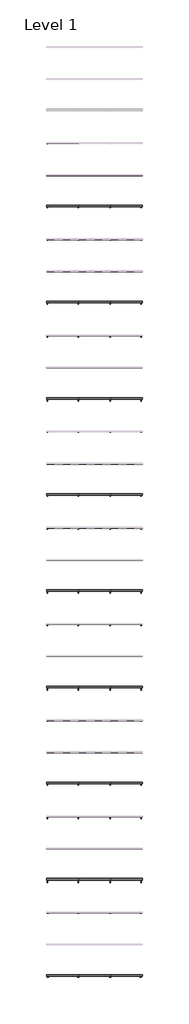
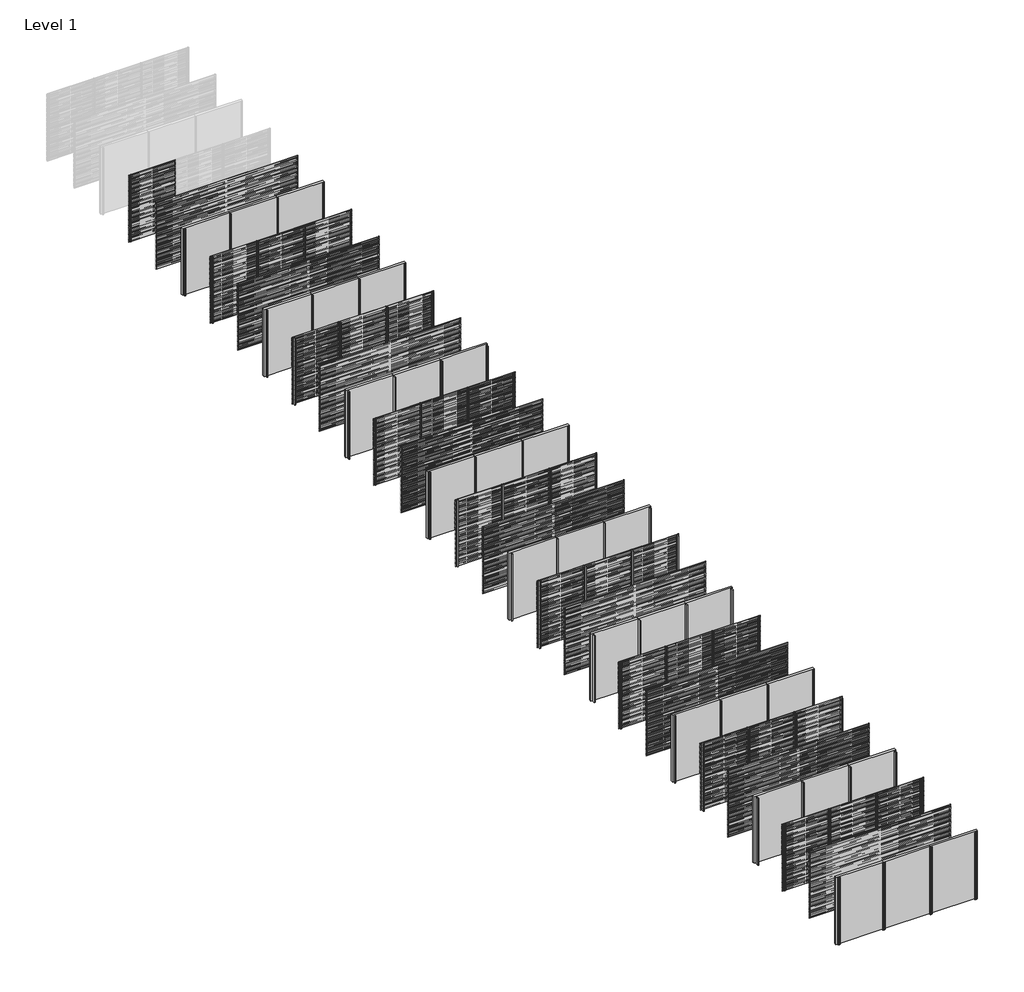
# One storey, part 1 of 38: 69 members, 61 plates.
"""IFC4 building model written with IfcOpenShell, lengths in millimetres."""

from ifc_helpers import new_model, si_unit, origin, origin_with_axes, place, context, project, spatial, polyline, outline, extrude, transform, mapped, element, save
from components import rectangular_mullion_e1f482b2, rectangular_mullion_21e3ddae, rectangular_mullion_fb497acc, rectangular_mullion_3facce28, rectangular_mullion_6cf2c509, rectangular_mullion_8b77bd57, rectangular_mullion_2c867e25, rectangular_mullion_7803f5c4, rectangular_mullion_82152e2f, rectangular_mullion_146f339b, rectangular_mullion_aa1047c5, rectangular_mullion_c2c7736a, rectangular_mullion_35b0a916, rectangular_mullion_bd250e2e, rectangular_mullion_7b49c8f1, rectangular_mullion_2b84ad7e, rectangular_mullion_0fd695e7, rectangular_mullion_9b796d85, rectangular_mullion_dfb17e98, rectangular_mullion_6132f1f1, rectangular_mullion_8f153c19, rectangular_mullion_5b30f3fd, rectangular_mullion_5e0e8e0a, rectangular_mullion_d2d38772, rectangular_mullion_efb80f74, rectangular_mullion_aaa1fb1b, rectangular_mullion_ea9d012c, empty_system_panel_empty_90a97279

model = new_model("IFC4")

# Units and contexts
model_context = context("Model", 3, world=origin())
ifc_project = project(units=[si_unit("LENGTHUNIT", "METRE", prefix="MILLI")], contexts=[model_context])

# Site, building, storey
site = spatial("IfcSite", under=ifc_project)
building = spatial("IfcBuilding", under=site)
storey = spatial("IfcBuildingStorey", under=building, Name="Level 1", Elevation=0.0)

# Members
placement = place(None, origin())
rectangular_mullion_shape = rectangular_mullion_e1f482b2(model_context)
element("IfcMember", 1, ObjectType="Rectangular Mullion : NLRS_21_CWM_drager LD.0195_Storax", at=placement, inside=storey, context=model_context, shape_type="MappedRepresentation", body=[
    mapped(rectangular_mullion_shape, transform((4000.0, -10000.0, 0.0), x_axis=(-1.0, 0.0, 0.0), y_axis=(0.0, 1.0, 0.0), z_axis=(0.0, 0.0, -1.0))),
])
element("IfcMember", 2, ObjectType="Rectangular Mullion : NLRS_21_CWM_drager LD.0195_Storax", at=placement, inside=storey, context=model_context, shape_type="MappedRepresentation", body=[
    mapped(rectangular_mullion_shape, transform((2000.0, -10000.0, 0.0), x_axis=(-1.0, 0.0, 0.0), y_axis=(0.0, 1.0, 0.0), z_axis=(0.0, 0.0, -1.0))),
])
rectangular_mullion_2_shape = rectangular_mullion_21e3ddae(model_context)
element("IfcMember", 3, ObjectType="Rectangular Mullion : NLRS_21_CWM_drager LD.0460_Storax", at=placement, inside=storey, context=model_context, shape_type="MappedRepresentation", body=[
    mapped(rectangular_mullion_2_shape, transform((4000.0, -12000.0, 0.0), x_axis=(-1.0, 0.0, 0.0), y_axis=(0.0, 1.0, 0.0), z_axis=(0.0, 0.0, -1.0))),
])
element("IfcMember", 4, ObjectType="Rectangular Mullion : NLRS_21_CWM_drager LD.0460_Storax", at=placement, inside=storey, context=model_context, shape_type="MappedRepresentation", body=[
    mapped(rectangular_mullion_2_shape, transform((2000.0, -12000.0, 0.0), x_axis=(-1.0, 0.0, 0.0), y_axis=(0.0, 1.0, 0.0), z_axis=(0.0, 0.0, -1.0))),
])
element("IfcMember", 5, ObjectType="Rectangular Mullion : NLRS_21_CWM_drager LD.0460_Storax", at=placement, inside=storey, context=model_context, shape_type="MappedRepresentation", body=[
    mapped(rectangular_mullion_2_shape, transform((4000.0, -16000.0, 0.0), x_axis=(-1.0, 0.0, 0.0), y_axis=(0.0, 1.0, 0.0), z_axis=(0.0, 0.0, -1.0))),
])
element("IfcMember", 6, ObjectType="Rectangular Mullion : NLRS_21_CWM_drager LD.0460_Storax", at=placement, inside=storey, context=model_context, shape_type="MappedRepresentation", body=[
    mapped(rectangular_mullion_2_shape, transform((2000.0, -16000.0, 0.0), x_axis=(-1.0, 0.0, 0.0), y_axis=(0.0, 1.0, 0.0), z_axis=(0.0, 0.0, -1.0))),
])
rectangular_mullion_3_shape = rectangular_mullion_fb497acc(model_context)
element("IfcMember", 7, ObjectType="Rectangular Mullion : NLRS_21_CWM_drager LD.0995_Storax", at=placement, inside=storey, context=model_context, shape_type="MappedRepresentation", body=[
    mapped(rectangular_mullion_3_shape, transform((4000.0, -18000.0, 0.0), x_axis=(-1.0, 0.0, 0.0), y_axis=(0.0, 1.0, 0.0), z_axis=(0.0, 0.0, -1.0))),
])
element("IfcMember", 8, ObjectType="Rectangular Mullion : NLRS_21_CWM_drager LD.0995_Storax", at=placement, inside=storey, context=model_context, shape_type="MappedRepresentation", body=[
    mapped(rectangular_mullion_3_shape, transform((2000.0, -18000.0, 0.0), x_axis=(-1.0, 0.0, 0.0), y_axis=(0.0, 1.0, 0.0), z_axis=(0.0, 0.0, -1.0))),
])
element("IfcMember", 9, ObjectType="Rectangular Mullion : NLRS_21_CWM_drager LD.0995_Storax", at=placement, inside=storey, context=model_context, shape_type="MappedRepresentation", body=[
    mapped(rectangular_mullion_3_shape, transform((4000.0, -22000.0, 0.0), x_axis=(-1.0, 0.0, 0.0), y_axis=(0.0, 1.0, 0.0), z_axis=(0.0, 0.0, -1.0))),
])
element("IfcMember", 10, ObjectType="Rectangular Mullion : NLRS_21_CWM_drager LD.0995_Storax", at=placement, inside=storey, context=model_context, shape_type="MappedRepresentation", body=[
    mapped(rectangular_mullion_3_shape, transform((2000.0, -22000.0, 0.0), x_axis=(-1.0, 0.0, 0.0), y_axis=(0.0, 1.0, 0.0), z_axis=(0.0, 0.0, -1.0))),
])
rectangular_mullion_4_shape = rectangular_mullion_3facce28(model_context)
element("IfcMember", 11, ObjectType="Rectangular Mullion : NLRS_21_CWM_drager SD.014_Storax", at=placement, inside=storey, context=model_context, shape_type="MappedRepresentation", body=[
    mapped(rectangular_mullion_4_shape, transform((4000.0, -24000.0, 0.0), x_axis=(-1.0, 0.0, 0.0), y_axis=(0.0, 1.0, 0.0), z_axis=(0.0, 0.0, -1.0))),
])
element("IfcMember", 12, ObjectType="Rectangular Mullion : NLRS_21_CWM_drager SD.014_Storax", at=placement, inside=storey, context=model_context, shape_type="MappedRepresentation", body=[
    mapped(rectangular_mullion_4_shape, transform((2000.0, -24000.0, 0.0), x_axis=(-1.0, 0.0, 0.0), y_axis=(0.0, 1.0, 0.0), z_axis=(0.0, 0.0, -1.0))),
])
element("IfcMember", 13, ObjectType="Rectangular Mullion : NLRS_21_CWM_drager SD.014_Storax", at=placement, inside=storey, context=model_context, shape_type="MappedRepresentation", body=[
    mapped(rectangular_mullion_4_shape, transform((4000.0, -28000.0, 0.0), x_axis=(-1.0, 0.0, 0.0), y_axis=(0.0, 1.0, 0.0), z_axis=(0.0, 0.0, -1.0))),
])
element("IfcMember", 14, ObjectType="Rectangular Mullion : NLRS_21_CWM_drager SD.014_Storax", at=placement, inside=storey, context=model_context, shape_type="MappedRepresentation", body=[
    mapped(rectangular_mullion_4_shape, transform((2000.0, -28000.0, 0.0), x_axis=(-1.0, 0.0, 0.0), y_axis=(0.0, 1.0, 0.0), z_axis=(0.0, 0.0, -1.0))),
])
rectangular_mullion_5_shape = rectangular_mullion_6cf2c509(model_context)
element("IfcMember", 15, ObjectType="Rectangular Mullion : NLRS_21_CWM_drager SD.054_Storax", at=placement, inside=storey, context=model_context, shape_type="MappedRepresentation", body=[
    mapped(rectangular_mullion_5_shape, transform((4000.0, -30000.0, 0.0), x_axis=(-1.0, 0.0, 0.0), y_axis=(0.0, 1.0, 0.0), z_axis=(0.0, 0.0, -1.0))),
])
element("IfcMember", 16, ObjectType="Rectangular Mullion : NLRS_21_CWM_drager SD.054_Storax", at=placement, inside=storey, context=model_context, shape_type="MappedRepresentation", body=[
    mapped(rectangular_mullion_5_shape, transform((2000.0, -30000.0, 0.0), x_axis=(-1.0, 0.0, 0.0), y_axis=(0.0, 1.0, 0.0), z_axis=(0.0, 0.0, -1.0))),
])
element("IfcMember", 17, ObjectType="Rectangular Mullion : NLRS_21_CWM_drager SD.054_Storax", at=placement, inside=storey, context=model_context, shape_type="MappedRepresentation", body=[
    mapped(rectangular_mullion_5_shape, transform((4000.0, -34000.0, 0.0), x_axis=(-1.0, 0.0, 0.0), y_axis=(0.0, 1.0, 0.0), z_axis=(0.0, 0.0, -1.0))),
])
element("IfcMember", 18, ObjectType="Rectangular Mullion : NLRS_21_CWM_drager SD.054_Storax", at=placement, inside=storey, context=model_context, shape_type="MappedRepresentation", body=[
    mapped(rectangular_mullion_5_shape, transform((2000.0, -34000.0, 0.0), x_axis=(-1.0, 0.0, 0.0), y_axis=(0.0, 1.0, 0.0), z_axis=(0.0, 0.0, -1.0))),
])
rectangular_mullion_6_shape = rectangular_mullion_8b77bd57(model_context)
element("IfcMember", 19, ObjectType="Rectangular Mullion : NLRS_21_CWM_drager SD.100_Storax", at=placement, inside=storey, context=model_context, shape_type="MappedRepresentation", body=[
    mapped(rectangular_mullion_6_shape, transform((4000.0, -36000.0, 0.0), x_axis=(-1.0, 0.0, 0.0), y_axis=(0.0, 1.0, 0.0), z_axis=(0.0, 0.0, -1.0))),
])
element("IfcMember", 20, ObjectType="Rectangular Mullion : NLRS_21_CWM_drager SD.100_Storax", at=placement, inside=storey, context=model_context, shape_type="MappedRepresentation", body=[
    mapped(rectangular_mullion_6_shape, transform((2000.0, -36000.0, 0.0), x_axis=(-1.0, 0.0, 0.0), y_axis=(0.0, 1.0, 0.0), z_axis=(0.0, 0.0, -1.0))),
])
element("IfcMember", 21, ObjectType="Rectangular Mullion : NLRS_21_CWM_drager SD.100_Storax", at=placement, inside=storey, context=model_context, shape_type="MappedRepresentation", body=[
    mapped(rectangular_mullion_6_shape, transform((4000.0, -40000.0, 0.0), x_axis=(-1.0, 0.0, 0.0), y_axis=(0.0, 1.0, 0.0), z_axis=(0.0, 0.0, -1.0))),
])
element("IfcMember", 22, ObjectType="Rectangular Mullion : NLRS_21_CWM_drager SD.100_Storax", at=placement, inside=storey, context=model_context, shape_type="MappedRepresentation", body=[
    mapped(rectangular_mullion_6_shape, transform((2000.0, -40000.0, 0.0), x_axis=(-1.0, 0.0, 0.0), y_axis=(0.0, 1.0, 0.0), z_axis=(0.0, 0.0, -1.0))),
])
rectangular_mullion_7_shape = rectangular_mullion_2c867e25(model_context)
element("IfcMember", 23, ObjectType="Rectangular Mullion : NLRS_21_CWM_drager LD.0440_Storax", at=placement, inside=storey, context=model_context, shape_type="MappedRepresentation", body=[
    mapped(rectangular_mullion_7_shape, transform((4000.0, -42000.0, 0.0), x_axis=(-1.0, 0.0, 0.0), y_axis=(0.0, 1.0, 0.0), z_axis=(0.0, 0.0, -1.0))),
])
element("IfcMember", 24, ObjectType="Rectangular Mullion : NLRS_21_CWM_drager LD.0440_Storax", at=placement, inside=storey, context=model_context, shape_type="MappedRepresentation", body=[
    mapped(rectangular_mullion_7_shape, transform((2000.0, -42000.0, 0.0), x_axis=(-1.0, 0.0, 0.0), y_axis=(0.0, 1.0, 0.0), z_axis=(0.0, 0.0, -1.0))),
])
element("IfcMember", 25, ObjectType="Rectangular Mullion : NLRS_21_CWM_drager LD.0440_Storax", at=placement, inside=storey, context=model_context, shape_type="MappedRepresentation", body=[
    mapped(rectangular_mullion_7_shape, transform((4000.0, -46000.0, 0.0), x_axis=(-1.0, 0.0, 0.0), y_axis=(0.0, 1.0, 0.0), z_axis=(0.0, 0.0, -1.0))),
])
element("IfcMember", 26, ObjectType="Rectangular Mullion : NLRS_21_CWM_drager LD.0440_Storax", at=placement, inside=storey, context=model_context, shape_type="MappedRepresentation", body=[
    mapped(rectangular_mullion_7_shape, transform((2000.0, -46000.0, 0.0), x_axis=(-1.0, 0.0, 0.0), y_axis=(0.0, 1.0, 0.0), z_axis=(0.0, 0.0, -1.0))),
])
rectangular_mullion_8_shape = rectangular_mullion_7803f5c4(model_context)
element("IfcMember", 27, ObjectType="Rectangular Mullion : NLRS_21_CWM_drager LD.1250_Storax", at=placement, inside=storey, context=model_context, shape_type="MappedRepresentation", body=[
    mapped(rectangular_mullion_8_shape, transform((4000.0, -48000.0, 0.0), x_axis=(-1.0, 0.0, 0.0), y_axis=(0.0, 1.0, 0.0), z_axis=(0.0, 0.0, -1.0))),
])
element("IfcMember", 28, ObjectType="Rectangular Mullion : NLRS_21_CWM_drager LD.1250_Storax", at=placement, inside=storey, context=model_context, shape_type="MappedRepresentation", body=[
    mapped(rectangular_mullion_8_shape, transform((2000.0, -48000.0, 0.0), x_axis=(-1.0, 0.0, 0.0), y_axis=(0.0, 1.0, 0.0), z_axis=(0.0, 0.0, -1.0))),
])
element("IfcMember", 29, ObjectType="Rectangular Mullion : NLRS_21_CWM_drager LD.1250_Storax", at=placement, inside=storey, context=model_context, shape_type="MappedRepresentation", body=[
    mapped(rectangular_mullion_8_shape, transform((4000.0, -52000.0, 0.0), x_axis=(-1.0, 0.0, 0.0), y_axis=(0.0, 1.0, 0.0), z_axis=(0.0, 0.0, -1.0))),
])
element("IfcMember", 30, ObjectType="Rectangular Mullion : NLRS_21_CWM_drager LD.1250_Storax", at=placement, inside=storey, context=model_context, shape_type="MappedRepresentation", body=[
    mapped(rectangular_mullion_8_shape, transform((2000.0, -52000.0, 0.0), x_axis=(-1.0, 0.0, 0.0), y_axis=(0.0, 1.0, 0.0), z_axis=(0.0, 0.0, -1.0))),
])
rectangular_mullion_9_shape = rectangular_mullion_82152e2f(model_context)
element("IfcMember", 31, ObjectType="Rectangular Mullion : NLRS_21_CWM_drager LD.0240_Storax", at=placement, inside=storey, context=model_context, shape_type="MappedRepresentation", body=[
    mapped(rectangular_mullion_9_shape, transform((4000.0, -54000.0, 0.0), x_axis=(-1.0, 0.0, 0.0), y_axis=(0.0, 1.0, 0.0), z_axis=(0.0, 0.0, -1.0))),
])
element("IfcMember", 32, ObjectType="Rectangular Mullion : NLRS_21_CWM_drager LD.0240_Storax", at=placement, inside=storey, context=model_context, shape_type="MappedRepresentation", body=[
    mapped(rectangular_mullion_9_shape, transform((2000.0, -54000.0, 0.0), x_axis=(-1.0, 0.0, 0.0), y_axis=(0.0, 1.0, 0.0), z_axis=(0.0, 0.0, -1.0))),
])
element("IfcMember", 33, ObjectType="Rectangular Mullion : NLRS_21_CWM_drager LD.0240_Storax", at=placement, inside=storey, context=model_context, shape_type="MappedRepresentation", body=[
    mapped(rectangular_mullion_9_shape, transform((4000.0, -58000.0, 0.0), x_axis=(-1.0, 0.0, 0.0), y_axis=(0.0, 1.0, 0.0), z_axis=(0.0, 0.0, -1.0))),
])
element("IfcMember", 34, ObjectType="Rectangular Mullion : NLRS_21_CWM_drager LD.0240_Storax", at=placement, inside=storey, context=model_context, shape_type="MappedRepresentation", body=[
    mapped(rectangular_mullion_9_shape, transform((2000.0, -58000.0, 0.0), x_axis=(-1.0, 0.0, 0.0), y_axis=(0.0, 1.0, 0.0), z_axis=(0.0, 0.0, -1.0))),
])
rectangular_mullion_10_shape = rectangular_mullion_146f339b(model_context)
element("IfcMember", 35, ObjectType="Rectangular Mullion : NLRS_21_CWM_drager LD.0195 - links_Storax", at=placement, inside=storey, context=model_context, shape_type="MappedRepresentation", body=[
    mapped(rectangular_mullion_10_shape, transform((0.0, -6000.0, 0.0), x_axis=(-1.0, 0.0, 0.0), y_axis=(0.0, 1.0, 0.0), z_axis=(0.0, 0.0, -1.0))),
])
element("IfcMember", 36, ObjectType="Rectangular Mullion : NLRS_21_CWM_drager LD.0195 - links_Storax", at=placement, inside=storey, context=model_context, shape_type="MappedRepresentation", body=[
    mapped(rectangular_mullion_10_shape, transform((0.0, -10000.0, 0.0), x_axis=(-1.0, 0.0, 0.0), y_axis=(0.0, 1.0, 0.0), z_axis=(0.0, 0.0, -1.0))),
])
rectangular_mullion_11_shape = rectangular_mullion_aa1047c5(model_context)
element("IfcMember", 37, ObjectType="Rectangular Mullion : NLRS_21_CWM_drager LD.0195 - rechts_Storax", at=placement, inside=storey, context=model_context, shape_type="MappedRepresentation", body=[
    mapped(rectangular_mullion_11_shape, transform((6000.0, -10000.0, 3000.0), x_axis=(1.0, 0.0, 0.0), y_axis=(0.0, 1.0, 0.0), z_axis=(0.0, 0.0, 1.0))),
])
rectangular_mullion_12_shape = rectangular_mullion_c2c7736a(model_context)
element("IfcMember", 38, ObjectType="Rectangular Mullion : NLRS_21_CWM_drager LD.0460 - links_Storax", at=placement, inside=storey, context=model_context, shape_type="MappedRepresentation", body=[
    mapped(rectangular_mullion_12_shape, transform((0.0, -12000.0, 0.0), x_axis=(-1.0, 0.0, 0.0), y_axis=(0.0, 1.0, 0.0), z_axis=(0.0, 0.0, -1.0))),
])
element("IfcMember", 39, ObjectType="Rectangular Mullion : NLRS_21_CWM_drager LD.0460 - links_Storax", at=placement, inside=storey, context=model_context, shape_type="MappedRepresentation", body=[
    mapped(rectangular_mullion_12_shape, transform((0.0, -16000.0, 0.0), x_axis=(-1.0, 0.0, 0.0), y_axis=(0.0, 1.0, 0.0), z_axis=(0.0, 0.0, -1.0))),
])
rectangular_mullion_13_shape = rectangular_mullion_35b0a916(model_context)
element("IfcMember", 40, ObjectType="Rectangular Mullion : NLRS_21_CWM_drager LD.0460 - rechts_Storax", at=placement, inside=storey, context=model_context, shape_type="MappedRepresentation", body=[
    mapped(rectangular_mullion_13_shape, transform((6000.0, -12000.0, 3000.0), x_axis=(1.0, 0.0, 0.0), y_axis=(0.0, 1.0, 0.0), z_axis=(0.0, 0.0, 1.0))),
])
element("IfcMember", 41, ObjectType="Rectangular Mullion : NLRS_21_CWM_drager LD.0460 - rechts_Storax", at=placement, inside=storey, context=model_context, shape_type="MappedRepresentation", body=[
    mapped(rectangular_mullion_13_shape, transform((6000.0, -16000.0, 3000.0), x_axis=(1.0, 0.0, 0.0), y_axis=(0.0, 1.0, 0.0), z_axis=(0.0, 0.0, 1.0))),
])
rectangular_mullion_14_shape = rectangular_mullion_bd250e2e(model_context)
element("IfcMember", 42, ObjectType="Rectangular Mullion : NLRS_21_CWM_drager LD.0995 - links_Storax", at=placement, inside=storey, context=model_context, shape_type="MappedRepresentation", body=[
    mapped(rectangular_mullion_14_shape, transform((0.0, -18000.0, 0.0), x_axis=(-1.0, 0.0, 0.0), y_axis=(0.0, 1.0, 0.0), z_axis=(0.0, 0.0, -1.0))),
])
element("IfcMember", 43, ObjectType="Rectangular Mullion : NLRS_21_CWM_drager LD.0995 - links_Storax", at=placement, inside=storey, context=model_context, shape_type="MappedRepresentation", body=[
    mapped(rectangular_mullion_14_shape, transform((0.0, -22000.0, 0.0), x_axis=(-1.0, 0.0, 0.0), y_axis=(0.0, 1.0, 0.0), z_axis=(0.0, 0.0, -1.0))),
])
rectangular_mullion_15_shape = rectangular_mullion_7b49c8f1(model_context)
element("IfcMember", 44, ObjectType="Rectangular Mullion : NLRS_21_CWM_drager LD.0995 - rechts_Storax", at=placement, inside=storey, context=model_context, shape_type="MappedRepresentation", body=[
    mapped(rectangular_mullion_15_shape, transform((6000.0, -18000.0, 3000.0), x_axis=(1.0, 0.0, 0.0), y_axis=(0.0, 1.0, 0.0), z_axis=(0.0, 0.0, 1.0))),
])
element("IfcMember", 45, ObjectType="Rectangular Mullion : NLRS_21_CWM_drager LD.0995 - rechts_Storax", at=placement, inside=storey, context=model_context, shape_type="MappedRepresentation", body=[
    mapped(rectangular_mullion_15_shape, transform((6000.0, -22000.0, 3000.0), x_axis=(1.0, 0.0, 0.0), y_axis=(0.0, 1.0, 0.0), z_axis=(0.0, 0.0, 1.0))),
])
rectangular_mullion_16_shape = rectangular_mullion_2b84ad7e(model_context)
element("IfcMember", 46, ObjectType="Rectangular Mullion : NLRS_21_CWM_drager SD.014 - links_Storax", at=placement, inside=storey, context=model_context, shape_type="MappedRepresentation", body=[
    mapped(rectangular_mullion_16_shape, transform((0.0, -24000.0, 0.0), x_axis=(-1.0, 0.0, 0.0), y_axis=(0.0, 1.0, 0.0), z_axis=(0.0, 0.0, -1.0))),
])
element("IfcMember", 47, ObjectType="Rectangular Mullion : NLRS_21_CWM_drager SD.014 - links_Storax", at=placement, inside=storey, context=model_context, shape_type="MappedRepresentation", body=[
    mapped(rectangular_mullion_16_shape, transform((0.0, -28000.0, 0.0), x_axis=(-1.0, 0.0, 0.0), y_axis=(0.0, 1.0, 0.0), z_axis=(0.0, 0.0, -1.0))),
])
rectangular_mullion_17_shape = rectangular_mullion_0fd695e7(model_context)
element("IfcMember", 48, ObjectType="Rectangular Mullion : NLRS_21_CWM_drager SD.014 - rechts_Storax", at=placement, inside=storey, context=model_context, shape_type="MappedRepresentation", body=[
    mapped(rectangular_mullion_17_shape, transform((6000.0, -24000.0, 3000.0), x_axis=(1.0, 0.0, 0.0), y_axis=(0.0, 1.0, 0.0), z_axis=(0.0, 0.0, 1.0))),
])
element("IfcMember", 49, ObjectType="Rectangular Mullion : NLRS_21_CWM_drager SD.014 - rechts_Storax", at=placement, inside=storey, context=model_context, shape_type="MappedRepresentation", body=[
    mapped(rectangular_mullion_17_shape, transform((6000.0, -28000.0, 3000.0), x_axis=(1.0, 0.0, 0.0), y_axis=(0.0, 1.0, 0.0), z_axis=(0.0, 0.0, 1.0))),
])
rectangular_mullion_18_shape = rectangular_mullion_9b796d85(model_context)
element("IfcMember", 50, ObjectType="Rectangular Mullion : NLRS_21_CWM_drager SD.054 - links_Storax", at=placement, inside=storey, context=model_context, shape_type="MappedRepresentation", body=[
    mapped(rectangular_mullion_18_shape, transform((0.0, -30000.0, 0.0), x_axis=(-1.0, 0.0, 0.0), y_axis=(0.0, 1.0, 0.0), z_axis=(0.0, 0.0, -1.0))),
])
element("IfcMember", 51, ObjectType="Rectangular Mullion : NLRS_21_CWM_drager SD.054 - links_Storax", at=placement, inside=storey, context=model_context, shape_type="MappedRepresentation", body=[
    mapped(rectangular_mullion_18_shape, transform((0.0, -34000.0, 0.0), x_axis=(-1.0, 0.0, 0.0), y_axis=(0.0, 1.0, 0.0), z_axis=(0.0, 0.0, -1.0))),
])
rectangular_mullion_19_shape = rectangular_mullion_dfb17e98(model_context)
element("IfcMember", 52, ObjectType="Rectangular Mullion : NLRS_21_CWM_drager SD.054 - rechts_Storax", at=placement, inside=storey, context=model_context, shape_type="MappedRepresentation", body=[
    mapped(rectangular_mullion_19_shape, transform((6000.0, -30000.0, 3000.0), x_axis=(1.0, 0.0, 0.0), y_axis=(0.0, 1.0, 0.0), z_axis=(0.0, 0.0, 1.0))),
])
element("IfcMember", 53, ObjectType="Rectangular Mullion : NLRS_21_CWM_drager SD.054 - rechts_Storax", at=placement, inside=storey, context=model_context, shape_type="MappedRepresentation", body=[
    mapped(rectangular_mullion_19_shape, transform((6000.0, -34000.0, 3000.0), x_axis=(1.0, 0.0, 0.0), y_axis=(0.0, 1.0, 0.0), z_axis=(0.0, 0.0, 1.0))),
])
rectangular_mullion_20_shape = rectangular_mullion_6132f1f1(model_context)
element("IfcMember", 54, ObjectType="Rectangular Mullion : NLRS_21_CWM_drager SD.100 - links_Storax", at=placement, inside=storey, context=model_context, shape_type="MappedRepresentation", body=[
    mapped(rectangular_mullion_20_shape, transform((0.0, -36000.0, 0.0), x_axis=(-1.0, 0.0, 0.0), y_axis=(0.0, 1.0, 0.0), z_axis=(0.0, 0.0, -1.0))),
])
element("IfcMember", 55, ObjectType="Rectangular Mullion : NLRS_21_CWM_drager SD.100 - links_Storax", at=placement, inside=storey, context=model_context, shape_type="MappedRepresentation", body=[
    mapped(rectangular_mullion_20_shape, transform((0.0, -40000.0, 0.0), x_axis=(-1.0, 0.0, 0.0), y_axis=(0.0, 1.0, 0.0), z_axis=(0.0, 0.0, -1.0))),
])
rectangular_mullion_21_shape = rectangular_mullion_8f153c19(model_context)
element("IfcMember", 56, ObjectType="Rectangular Mullion : NLRS_21_CWM_drager SD.100 - rechts_Storax", at=placement, inside=storey, context=model_context, shape_type="MappedRepresentation", body=[
    mapped(rectangular_mullion_21_shape, transform((6000.0, -36000.0, 3000.0), x_axis=(1.0, 0.0, 0.0), y_axis=(0.0, 1.0, 0.0), z_axis=(0.0, 0.0, 1.0))),
])
element("IfcMember", 57, ObjectType="Rectangular Mullion : NLRS_21_CWM_drager SD.100 - rechts_Storax", at=placement, inside=storey, context=model_context, shape_type="MappedRepresentation", body=[
    mapped(rectangular_mullion_21_shape, transform((6000.0, -40000.0, 3000.0), x_axis=(1.0, 0.0, 0.0), y_axis=(0.0, 1.0, 0.0), z_axis=(0.0, 0.0, 1.0))),
])
rectangular_mullion_22_shape = rectangular_mullion_5b30f3fd(model_context)
element("IfcMember", 58, ObjectType="Rectangular Mullion : NLRS_21_CWM_drager LD.0440 - links_Storax", at=placement, inside=storey, context=model_context, shape_type="MappedRepresentation", body=[
    mapped(rectangular_mullion_22_shape, transform((0.0, -42000.0, 0.0), x_axis=(-1.0, 0.0, 0.0), y_axis=(0.0, 1.0, 0.0), z_axis=(0.0, 0.0, -1.0))),
])
element("IfcMember", 59, ObjectType="Rectangular Mullion : NLRS_21_CWM_drager LD.0440 - links_Storax", at=placement, inside=storey, context=model_context, shape_type="MappedRepresentation", body=[
    mapped(rectangular_mullion_22_shape, transform((0.0, -46000.0, 0.0), x_axis=(-1.0, 0.0, 0.0), y_axis=(0.0, 1.0, 0.0), z_axis=(0.0, 0.0, -1.0))),
])
rectangular_mullion_23_shape = rectangular_mullion_5e0e8e0a(model_context)
element("IfcMember", 60, ObjectType="Rectangular Mullion : NLRS_21_CWM_drager LD.0440 - rechts_Storax", at=placement, inside=storey, context=model_context, shape_type="MappedRepresentation", body=[
    mapped(rectangular_mullion_23_shape, transform((6000.0, -42000.0, 3000.0), x_axis=(1.0, 0.0, 0.0), y_axis=(0.0, 1.0, 0.0), z_axis=(0.0, 0.0, 1.0))),
])
element("IfcMember", 61, ObjectType="Rectangular Mullion : NLRS_21_CWM_drager LD.0440 - rechts_Storax", at=placement, inside=storey, context=model_context, shape_type="MappedRepresentation", body=[
    mapped(rectangular_mullion_23_shape, transform((6000.0, -46000.0, 3000.0), x_axis=(1.0, 0.0, 0.0), y_axis=(0.0, 1.0, 0.0), z_axis=(0.0, 0.0, 1.0))),
])
rectangular_mullion_24_shape = rectangular_mullion_d2d38772(model_context)
element("IfcMember", 62, ObjectType="Rectangular Mullion : NLRS_21_CWM_drager LD.1250 - links_Storax", at=placement, inside=storey, context=model_context, shape_type="MappedRepresentation", body=[
    mapped(rectangular_mullion_24_shape, transform((0.0, -48000.0, 0.0), x_axis=(-1.0, 0.0, 0.0), y_axis=(0.0, 1.0, 0.0), z_axis=(0.0, 0.0, -1.0))),
])
element("IfcMember", 63, ObjectType="Rectangular Mullion : NLRS_21_CWM_drager LD.1250 - links_Storax", at=placement, inside=storey, context=model_context, shape_type="MappedRepresentation", body=[
    mapped(rectangular_mullion_24_shape, transform((0.0, -52000.0, 0.0), x_axis=(-1.0, 0.0, 0.0), y_axis=(0.0, 1.0, 0.0), z_axis=(0.0, 0.0, -1.0))),
])
rectangular_mullion_25_shape = rectangular_mullion_efb80f74(model_context)
element("IfcMember", 64, ObjectType="Rectangular Mullion : NLRS_21_CWM_drager LD.1250 - rechts_Storax", at=placement, inside=storey, context=model_context, shape_type="MappedRepresentation", body=[
    mapped(rectangular_mullion_25_shape, transform((6000.0, -48000.0, 3000.0), x_axis=(1.0, 0.0, 0.0), y_axis=(0.0, 1.0, 0.0), z_axis=(0.0, 0.0, 1.0))),
])
element("IfcMember", 65, ObjectType="Rectangular Mullion : NLRS_21_CWM_drager LD.1250 - rechts_Storax", at=placement, inside=storey, context=model_context, shape_type="MappedRepresentation", body=[
    mapped(rectangular_mullion_25_shape, transform((6000.0, -52000.0, 3000.0), x_axis=(1.0, 0.0, 0.0), y_axis=(0.0, 1.0, 0.0), z_axis=(0.0, 0.0, 1.0))),
])
rectangular_mullion_26_shape = rectangular_mullion_aaa1fb1b(model_context)
element("IfcMember", 66, ObjectType="Rectangular Mullion : NLRS_21_CWM_drager LD.0240 - links_Storax", at=placement, inside=storey, context=model_context, shape_type="MappedRepresentation", body=[
    mapped(rectangular_mullion_26_shape, transform((0.0, -54000.0, 0.0), x_axis=(-1.0, 0.0, 0.0), y_axis=(0.0, 1.0, 0.0), z_axis=(0.0, 0.0, -1.0))),
])
element("IfcMember", 67, ObjectType="Rectangular Mullion : NLRS_21_CWM_drager LD.0240 - links_Storax", at=placement, inside=storey, context=model_context, shape_type="MappedRepresentation", body=[
    mapped(rectangular_mullion_26_shape, transform((0.0, -58000.0, 0.0), x_axis=(-1.0, 0.0, 0.0), y_axis=(0.0, 1.0, 0.0), z_axis=(0.0, 0.0, -1.0))),
])
rectangular_mullion_27_shape = rectangular_mullion_ea9d012c(model_context)
element("IfcMember", 68, ObjectType="Rectangular Mullion : NLRS_21_CWM_drager LD.0240 - rechts_Storax", at=placement, inside=storey, context=model_context, shape_type="MappedRepresentation", body=[
    mapped(rectangular_mullion_27_shape, transform((6000.0, -54000.0, 3000.0), x_axis=(1.0, 0.0, 0.0), y_axis=(0.0, 1.0, 0.0), z_axis=(0.0, 0.0, 1.0))),
])
element("IfcMember", 69, ObjectType="Rectangular Mullion : NLRS_21_CWM_drager LD.0240 - rechts_Storax", at=placement, inside=storey, context=model_context, shape_type="MappedRepresentation", body=[
    mapped(rectangular_mullion_27_shape, transform((6000.0, -58000.0, 3000.0), x_axis=(1.0, 0.0, 0.0), y_axis=(0.0, 1.0, 0.0), z_axis=(0.0, 0.0, 1.0))),
])

# Plates
element("IfcPlate", 70, ObjectType="NLRS_21_WA_lamellenwand Linius - L.050CL_Storax", at=placement, inside=storey, context=model_context, shape_type="SweptSolid", body=[
    extrude(outline(polyline([(0.0, -5999.0), (2000.0, -5999.0), (2000.0, -6001.0), (0.0, -6001.0), (0.0, -5999.0)])), origin_with_axes(), (0.0, 0.0, 1.0), 3000.0),
])
element("IfcPlate", 71, ObjectType="NLRS_21_WA_lamellenwand Linius - L.050CL_Storax", at=placement, inside=storey, context=model_context, shape_type="SweptSolid", body=[
    extrude(outline(polyline([(0.0, -7999.0), (6000.0, -7999.0), (6000.0, -8001.0), (0.0, -8001.0), (0.0, -7999.0)])), origin_with_axes(), (0.0, 0.0, 1.0), 3000.0),
])
element("IfcPlate", 72, ObjectType="NLRS_21_WA_lamellenwand Linius - L.050CL_Storax", at=placement, inside=storey, context=model_context, shape_type="SweptSolid", body=[
    extrude(outline(polyline([(0.0, -11999.0), (2000.0, -11999.0), (2000.0, -12001.0), (0.0, -12001.0), (0.0, -11999.0)])), origin_with_axes(), (0.0, 0.0, 1.0), 3000.0),
])
element("IfcPlate", 73, ObjectType="NLRS_21_WA_lamellenwand Linius - L.050CL_Storax", at=placement, inside=storey, context=model_context, shape_type="SweptSolid", body=[
    extrude(outline(polyline([(2000.0, -11999.0), (4000.0, -11999.0), (4000.0, -12001.0), (2000.0, -12001.0), (2000.0, -11999.0)])), origin_with_axes(), (0.0, 0.0, 1.0), 3000.0),
])
element("IfcPlate", 74, ObjectType="NLRS_21_WA_lamellenwand Linius - L.050CL_Storax", at=placement, inside=storey, context=model_context, shape_type="SweptSolid", body=[
    extrude(outline(polyline([(4000.0, -11999.0), (6000.0, -11999.0), (6000.0, -12001.0), (4000.0, -12001.0), (4000.0, -11999.0)])), origin_with_axes(), (0.0, 0.0, 1.0), 3000.0),
])
element("IfcPlate", 75, ObjectType="NLRS_21_WA_lamellenwand Linius - L.050CL_Storax", at=placement, inside=storey, context=model_context, shape_type="SweptSolid", body=[
    extrude(outline(polyline([(0.0, -13999.0), (6000.0, -13999.0), (6000.0, -14001.0), (0.0, -14001.0), (0.0, -13999.0)])), origin_with_axes(), (0.0, 0.0, 1.0), 3000.0),
])
element("IfcPlate", 76, ObjectType="NLRS_21_WA_lamellenwand Linius - L.050CL_Storax", at=placement, inside=storey, context=model_context, shape_type="SweptSolid", body=[
    extrude(outline(polyline([(0.0, -17999.0), (2000.0, -17999.0), (2000.0, -18001.0), (0.0, -18001.0), (0.0, -17999.0)])), origin_with_axes(), (0.0, 0.0, 1.0), 3000.0),
])
element("IfcPlate", 77, ObjectType="NLRS_21_WA_lamellenwand Linius - L.050CL_Storax", at=placement, inside=storey, context=model_context, shape_type="SweptSolid", body=[
    extrude(outline(polyline([(2000.0, -17999.0), (4000.0, -17999.0), (4000.0, -18001.0), (2000.0, -18001.0), (2000.0, -17999.0)])), origin_with_axes(), (0.0, 0.0, 1.0), 3000.0),
])
element("IfcPlate", 78, ObjectType="NLRS_21_WA_lamellenwand Linius - L.050CL_Storax", at=placement, inside=storey, context=model_context, shape_type="SweptSolid", body=[
    extrude(outline(polyline([(4000.0, -17999.0), (6000.0, -17999.0), (6000.0, -18001.0), (4000.0, -18001.0), (4000.0, -17999.0)])), origin_with_axes(), (0.0, 0.0, 1.0), 3000.0),
])
element("IfcPlate", 79, ObjectType="NLRS_21_WA_lamellenwand Linius - L.050CL_Storax", at=placement, inside=storey, context=model_context, shape_type="SweptSolid", body=[
    extrude(outline(polyline([(0.0, -19999.0), (6000.0, -19999.0), (6000.0, -20001.0), (0.0, -20001.0), (0.0, -19999.0)])), origin_with_axes(), (0.0, 0.0, 1.0), 3000.0),
])
element("IfcPlate", 80, ObjectType="NLRS_21_WA_lamellenwand Linius - L.050CL_Storax", at=placement, inside=storey, context=model_context, shape_type="SweptSolid", body=[
    extrude(outline(polyline([(0.0, -23999.0), (2000.0, -23999.0), (2000.0, -24001.0), (0.0, -24001.0), (0.0, -23999.0)])), origin_with_axes(), (0.0, 0.0, 1.0), 3000.0),
])
element("IfcPlate", 81, ObjectType="NLRS_21_WA_lamellenwand Linius - L.050CL_Storax", at=placement, inside=storey, context=model_context, shape_type="SweptSolid", body=[
    extrude(outline(polyline([(2000.0, -23999.0), (4000.0, -23999.0), (4000.0, -24001.0), (2000.0, -24001.0), (2000.0, -23999.0)])), origin_with_axes(), (0.0, 0.0, 1.0), 3000.0),
])
element("IfcPlate", 82, ObjectType="NLRS_21_WA_lamellenwand Linius - L.050CL_Storax", at=placement, inside=storey, context=model_context, shape_type="SweptSolid", body=[
    extrude(outline(polyline([(4000.0, -23999.0), (6000.0, -23999.0), (6000.0, -24001.0), (4000.0, -24001.0), (4000.0, -23999.0)])), origin_with_axes(), (0.0, 0.0, 1.0), 3000.0),
])
element("IfcPlate", 83, ObjectType="NLRS_21_WA_lamellenwand Linius - L.050CL_Storax", at=placement, inside=storey, context=model_context, shape_type="SweptSolid", body=[
    extrude(outline(polyline([(0.0, -25999.0), (6000.0, -25999.0), (6000.0, -26001.0), (0.0, -26001.0), (0.0, -25999.0)])), origin_with_axes(), (0.0, 0.0, 1.0), 3000.0),
])
element("IfcPlate", 84, ObjectType="NLRS_21_WA_lamellenwand Linius - L.050CL_Storax", at=placement, inside=storey, context=model_context, shape_type="SweptSolid", body=[
    extrude(outline(polyline([(0.0, -29999.0), (2000.0, -29999.0), (2000.0, -30001.0), (0.0, -30001.0), (0.0, -29999.0)])), origin_with_axes(), (0.0, 0.0, 1.0), 3000.0),
])
element("IfcPlate", 85, ObjectType="NLRS_21_WA_lamellenwand Linius - L.050CL_Storax", at=placement, inside=storey, context=model_context, shape_type="SweptSolid", body=[
    extrude(outline(polyline([(2000.0, -29999.0), (4000.0, -29999.0), (4000.0, -30001.0), (2000.0, -30001.0), (2000.0, -29999.0)])), origin_with_axes(), (0.0, 0.0, 1.0), 3000.0),
])
element("IfcPlate", 86, ObjectType="NLRS_21_WA_lamellenwand Linius - L.050CL_Storax", at=placement, inside=storey, context=model_context, shape_type="SweptSolid", body=[
    extrude(outline(polyline([(4000.0, -29999.0), (6000.0, -29999.0), (6000.0, -30001.0), (4000.0, -30001.0), (4000.0, -29999.0)])), origin_with_axes(), (0.0, 0.0, 1.0), 3000.0),
])
element("IfcPlate", 87, ObjectType="NLRS_21_WA_lamellenwand Linius - L.050CL_Storax", at=placement, inside=storey, context=model_context, shape_type="SweptSolid", body=[
    extrude(outline(polyline([(0.0, -31999.0), (6000.0, -31999.0), (6000.0, -32001.0), (0.0, -32001.0), (0.0, -31999.0)])), origin_with_axes(), (0.0, 0.0, 1.0), 3000.0),
])
element("IfcPlate", 88, ObjectType="NLRS_21_WA_lamellenwand Linius - L.050CL_Storax", at=placement, inside=storey, context=model_context, shape_type="SweptSolid", body=[
    extrude(outline(polyline([(0.0, -35999.0), (2000.0, -35999.0), (2000.0, -36001.0), (0.0, -36001.0), (0.0, -35999.0)])), origin_with_axes(), (0.0, 0.0, 1.0), 3000.0),
])
element("IfcPlate", 89, ObjectType="NLRS_21_WA_lamellenwand Linius - L.050CL_Storax", at=placement, inside=storey, context=model_context, shape_type="SweptSolid", body=[
    extrude(outline(polyline([(2000.0, -35999.0), (4000.0, -35999.0), (4000.0, -36001.0), (2000.0, -36001.0), (2000.0, -35999.0)])), origin_with_axes(), (0.0, 0.0, 1.0), 3000.0),
])
element("IfcPlate", 90, ObjectType="NLRS_21_WA_lamellenwand Linius - L.050CL_Storax", at=placement, inside=storey, context=model_context, shape_type="SweptSolid", body=[
    extrude(outline(polyline([(4000.0, -35999.0), (6000.0, -35999.0), (6000.0, -36001.0), (4000.0, -36001.0), (4000.0, -35999.0)])), origin_with_axes(), (0.0, 0.0, 1.0), 3000.0),
])
element("IfcPlate", 91, ObjectType="NLRS_21_WA_lamellenwand Linius - L.050CL_Storax", at=placement, inside=storey, context=model_context, shape_type="SweptSolid", body=[
    extrude(outline(polyline([(0.0, -37999.0), (6000.0, -37999.0), (6000.0, -38001.0), (0.0, -38001.0), (0.0, -37999.0)])), origin_with_axes(), (0.0, 0.0, 1.0), 3000.0),
])
element("IfcPlate", 92, ObjectType="NLRS_21_WA_lamellenwand Linius - L.050CL_Storax", at=placement, inside=storey, context=model_context, shape_type="SweptSolid", body=[
    extrude(outline(polyline([(0.0, -41999.0), (2000.0, -41999.0), (2000.0, -42001.0), (0.0, -42001.0), (0.0, -41999.0)])), origin_with_axes(), (0.0, 0.0, 1.0), 3000.0),
])
element("IfcPlate", 93, ObjectType="NLRS_21_WA_lamellenwand Linius - L.050CL_Storax", at=placement, inside=storey, context=model_context, shape_type="SweptSolid", body=[
    extrude(outline(polyline([(2000.0, -41999.0), (4000.0, -41999.0), (4000.0, -42001.0), (2000.0, -42001.0), (2000.0, -41999.0)])), origin_with_axes(), (0.0, 0.0, 1.0), 3000.0),
])
element("IfcPlate", 94, ObjectType="NLRS_21_WA_lamellenwand Linius - L.050CL_Storax", at=placement, inside=storey, context=model_context, shape_type="SweptSolid", body=[
    extrude(outline(polyline([(4000.0, -41999.0), (6000.0, -41999.0), (6000.0, -42001.0), (4000.0, -42001.0), (4000.0, -41999.0)])), origin_with_axes(), (0.0, 0.0, 1.0), 3000.0),
])
element("IfcPlate", 95, ObjectType="NLRS_21_WA_lamellenwand Linius - L.050CL_Storax", at=placement, inside=storey, context=model_context, shape_type="SweptSolid", body=[
    extrude(outline(polyline([(0.0, -43999.0), (6000.0, -43999.0), (6000.0, -44001.0), (0.0, -44001.0), (0.0, -43999.0)])), origin_with_axes(), (0.0, 0.0, 1.0), 3000.0),
])
element("IfcPlate", 96, ObjectType="NLRS_21_WA_lamellenwand Linius - L.050CL_Storax", at=placement, inside=storey, context=model_context, shape_type="SweptSolid", body=[
    extrude(outline(polyline([(0.0, -47999.0), (2000.0, -47999.0), (2000.0, -48001.0), (0.0, -48001.0), (0.0, -47999.0)])), origin_with_axes(), (0.0, 0.0, 1.0), 3000.0),
])
element("IfcPlate", 97, ObjectType="NLRS_21_WA_lamellenwand Linius - L.050CL_Storax", at=placement, inside=storey, context=model_context, shape_type="SweptSolid", body=[
    extrude(outline(polyline([(2000.0, -47999.0), (4000.0, -47999.0), (4000.0, -48001.0), (2000.0, -48001.0), (2000.0, -47999.0)])), origin_with_axes(), (0.0, 0.0, 1.0), 3000.0),
])
element("IfcPlate", 98, ObjectType="NLRS_21_WA_lamellenwand Linius - L.050CL_Storax", at=placement, inside=storey, context=model_context, shape_type="SweptSolid", body=[
    extrude(outline(polyline([(4000.0, -47999.0), (6000.0, -47999.0), (6000.0, -48001.0), (4000.0, -48001.0), (4000.0, -47999.0)])), origin_with_axes(), (0.0, 0.0, 1.0), 3000.0),
])
element("IfcPlate", 99, ObjectType="NLRS_21_WA_lamellenwand Linius - L.050CL_Storax", at=placement, inside=storey, context=model_context, shape_type="SweptSolid", body=[
    extrude(outline(polyline([(0.0, -49999.0), (6000.0, -49999.0), (6000.0, -50001.0), (0.0, -50001.0), (0.0, -49999.0)])), origin_with_axes(), (0.0, 0.0, 1.0), 3000.0),
])
element("IfcPlate", 100, ObjectType="NLRS_21_WA_lamellenwand Linius - L.050CL_Storax", at=placement, inside=storey, context=model_context, shape_type="SweptSolid", body=[
    extrude(outline(polyline([(0.0, -53999.0), (2000.0, -53999.0), (2000.0, -54001.0), (0.0, -54001.0), (0.0, -53999.0)])), origin_with_axes(), (0.0, 0.0, 1.0), 3000.0),
])
element("IfcPlate", 101, ObjectType="NLRS_21_WA_lamellenwand Linius - L.050CL_Storax", at=placement, inside=storey, context=model_context, shape_type="SweptSolid", body=[
    extrude(outline(polyline([(2000.0, -53999.0), (4000.0, -53999.0), (4000.0, -54001.0), (2000.0, -54001.0), (2000.0, -53999.0)])), origin_with_axes(), (0.0, 0.0, 1.0), 3000.0),
])
element("IfcPlate", 102, ObjectType="NLRS_21_WA_lamellenwand Linius - L.050CL_Storax", at=placement, inside=storey, context=model_context, shape_type="SweptSolid", body=[
    extrude(outline(polyline([(4000.0, -53999.0), (6000.0, -53999.0), (6000.0, -54001.0), (4000.0, -54001.0), (4000.0, -53999.0)])), origin_with_axes(), (0.0, 0.0, 1.0), 3000.0),
])
element("IfcPlate", 103, ObjectType="NLRS_21_WA_lamellenwand Linius - L.050CL_Storax", at=placement, inside=storey, context=model_context, shape_type="SweptSolid", body=[
    extrude(outline(polyline([(0.0, -55999.0), (6000.0, -55999.0), (6000.0, -56001.0), (0.0, -56001.0), (0.0, -55999.0)])), origin_with_axes(), (0.0, 0.0, 1.0), 3000.0),
])
empty_system_panel_empty_shape = empty_system_panel_empty_90a97279(model_context)
element("IfcPlate", 104, ObjectType="Empty System Panel : Empty", at=placement, inside=storey, context=model_context, shape_type="MappedRepresentation", body=[
    mapped(empty_system_panel_empty_shape, transform((5000.0, -10000.0, 0.0), x_axis=(-1.0, 0.0, 0.0), y_axis=(0.0, -1.0, 0.0), z_axis=(0.0, 0.0, 1.0))),
])
element("IfcPlate", 105, ObjectType="Empty System Panel : Empty", at=placement, inside=storey, context=model_context, shape_type="MappedRepresentation", body=[
    mapped(empty_system_panel_empty_shape, transform((5000.0, -16000.0, 0.0), x_axis=(-1.0, 0.0, 0.0), y_axis=(0.0, -1.0, 0.0), z_axis=(0.0, 0.0, 1.0))),
])
element("IfcPlate", 106, ObjectType="Empty System Panel : Empty", at=placement, inside=storey, context=model_context, shape_type="MappedRepresentation", body=[
    mapped(empty_system_panel_empty_shape, transform((5000.0, -22000.0, 0.0), x_axis=(-1.0, 0.0, 0.0), y_axis=(0.0, -1.0, 0.0), z_axis=(0.0, 0.0, 1.0))),
])
element("IfcPlate", 107, ObjectType="Empty System Panel : Empty", at=placement, inside=storey, context=model_context, shape_type="MappedRepresentation", body=[
    mapped(empty_system_panel_empty_shape, transform((5000.0, -28000.0, 0.0), x_axis=(-1.0, 0.0, 0.0), y_axis=(0.0, -1.0, 0.0), z_axis=(0.0, 0.0, 1.0))),
])
element("IfcPlate", 108, ObjectType="Empty System Panel : Empty", at=placement, inside=storey, context=model_context, shape_type="MappedRepresentation", body=[
    mapped(empty_system_panel_empty_shape, transform((5000.0, -34000.0, 0.0), x_axis=(-1.0, 0.0, 0.0), y_axis=(0.0, -1.0, 0.0), z_axis=(0.0, 0.0, 1.0))),
])
element("IfcPlate", 109, ObjectType="Empty System Panel : Empty", at=placement, inside=storey, context=model_context, shape_type="MappedRepresentation", body=[
    mapped(empty_system_panel_empty_shape, transform((5000.0, -40000.0, 0.0), x_axis=(-1.0, 0.0, 0.0), y_axis=(0.0, -1.0, 0.0), z_axis=(0.0, 0.0, 1.0))),
])
element("IfcPlate", 110, ObjectType="Empty System Panel : Empty", at=placement, inside=storey, context=model_context, shape_type="MappedRepresentation", body=[
    mapped(empty_system_panel_empty_shape, transform((5000.0, -46000.0, 0.0), x_axis=(-1.0, 0.0, 0.0), y_axis=(0.0, -1.0, 0.0), z_axis=(0.0, 0.0, 1.0))),
])
element("IfcPlate", 111, ObjectType="Empty System Panel : Empty", at=placement, inside=storey, context=model_context, shape_type="MappedRepresentation", body=[
    mapped(empty_system_panel_empty_shape, transform((5000.0, -52000.0, 0.0), x_axis=(-1.0, 0.0, 0.0), y_axis=(0.0, -1.0, 0.0), z_axis=(0.0, 0.0, 1.0))),
])
element("IfcPlate", 112, ObjectType="Empty System Panel : Empty", at=placement, inside=storey, context=model_context, shape_type="MappedRepresentation", body=[
    mapped(empty_system_panel_empty_shape, transform((5000.0, -58000.0, 0.0), x_axis=(-1.0, 0.0, 0.0), y_axis=(0.0, -1.0, 0.0), z_axis=(0.0, 0.0, 1.0))),
])
element("IfcPlate", 113, ObjectType="Empty System Panel : Empty", at=placement, inside=storey, context=model_context, shape_type="MappedRepresentation", body=[
    mapped(empty_system_panel_empty_shape, transform((3000.0, -10000.0, 0.0), x_axis=(-1.0, 0.0, 0.0), y_axis=(0.0, -1.0, 0.0), z_axis=(0.0, 0.0, 1.0))),
])
element("IfcPlate", 114, ObjectType="Empty System Panel : Empty", at=placement, inside=storey, context=model_context, shape_type="MappedRepresentation", body=[
    mapped(empty_system_panel_empty_shape, transform((1000.0, -10000.0, 0.0), x_axis=(-1.0, 0.0, 0.0), y_axis=(0.0, -1.0, 0.0), z_axis=(0.0, 0.0, 1.0))),
])
element("IfcPlate", 115, ObjectType="Empty System Panel : Empty", at=placement, inside=storey, context=model_context, shape_type="MappedRepresentation", body=[
    mapped(empty_system_panel_empty_shape, transform((3000.0, -16000.0, 0.0), x_axis=(-1.0, 0.0, 0.0), y_axis=(0.0, -1.0, 0.0), z_axis=(0.0, 0.0, 1.0))),
])
element("IfcPlate", 116, ObjectType="Empty System Panel : Empty", at=placement, inside=storey, context=model_context, shape_type="MappedRepresentation", body=[
    mapped(empty_system_panel_empty_shape, transform((1000.0, -16000.0, 0.0), x_axis=(-1.0, 0.0, 0.0), y_axis=(0.0, -1.0, 0.0), z_axis=(0.0, 0.0, 1.0))),
])
element("IfcPlate", 117, ObjectType="Empty System Panel : Empty", at=placement, inside=storey, context=model_context, shape_type="MappedRepresentation", body=[
    mapped(empty_system_panel_empty_shape, transform((3000.0, -22000.0, 0.0), x_axis=(-1.0, 0.0, 0.0), y_axis=(0.0, -1.0, 0.0), z_axis=(0.0, 0.0, 1.0))),
])
element("IfcPlate", 118, ObjectType="Empty System Panel : Empty", at=placement, inside=storey, context=model_context, shape_type="MappedRepresentation", body=[
    mapped(empty_system_panel_empty_shape, transform((1000.0, -22000.0, 0.0), x_axis=(-1.0, 0.0, 0.0), y_axis=(0.0, -1.0, 0.0), z_axis=(0.0, 0.0, 1.0))),
])
element("IfcPlate", 119, ObjectType="Empty System Panel : Empty", at=placement, inside=storey, context=model_context, shape_type="MappedRepresentation", body=[
    mapped(empty_system_panel_empty_shape, transform((3000.0, -28000.0, 0.0), x_axis=(-1.0, 0.0, 0.0), y_axis=(0.0, -1.0, 0.0), z_axis=(0.0, 0.0, 1.0))),
])
element("IfcPlate", 120, ObjectType="Empty System Panel : Empty", at=placement, inside=storey, context=model_context, shape_type="MappedRepresentation", body=[
    mapped(empty_system_panel_empty_shape, transform((1000.0, -28000.0, 0.0), x_axis=(-1.0, 0.0, 0.0), y_axis=(0.0, -1.0, 0.0), z_axis=(0.0, 0.0, 1.0))),
])
element("IfcPlate", 121, ObjectType="Empty System Panel : Empty", at=placement, inside=storey, context=model_context, shape_type="MappedRepresentation", body=[
    mapped(empty_system_panel_empty_shape, transform((3000.0, -34000.0, 0.0), x_axis=(-1.0, 0.0, 0.0), y_axis=(0.0, -1.0, 0.0), z_axis=(0.0, 0.0, 1.0))),
])
element("IfcPlate", 122, ObjectType="Empty System Panel : Empty", at=placement, inside=storey, context=model_context, shape_type="MappedRepresentation", body=[
    mapped(empty_system_panel_empty_shape, transform((1000.0, -34000.0, 0.0), x_axis=(-1.0, 0.0, 0.0), y_axis=(0.0, -1.0, 0.0), z_axis=(0.0, 0.0, 1.0))),
])
element("IfcPlate", 123, ObjectType="Empty System Panel : Empty", at=placement, inside=storey, context=model_context, shape_type="MappedRepresentation", body=[
    mapped(empty_system_panel_empty_shape, transform((3000.0, -40000.0, 0.0), x_axis=(-1.0, 0.0, 0.0), y_axis=(0.0, -1.0, 0.0), z_axis=(0.0, 0.0, 1.0))),
])
element("IfcPlate", 124, ObjectType="Empty System Panel : Empty", at=placement, inside=storey, context=model_context, shape_type="MappedRepresentation", body=[
    mapped(empty_system_panel_empty_shape, transform((1000.0, -40000.0, 0.0), x_axis=(-1.0, 0.0, 0.0), y_axis=(0.0, -1.0, 0.0), z_axis=(0.0, 0.0, 1.0))),
])
element("IfcPlate", 125, ObjectType="Empty System Panel : Empty", at=placement, inside=storey, context=model_context, shape_type="MappedRepresentation", body=[
    mapped(empty_system_panel_empty_shape, transform((3000.0, -46000.0, 0.0), x_axis=(-1.0, 0.0, 0.0), y_axis=(0.0, -1.0, 0.0), z_axis=(0.0, 0.0, 1.0))),
])
element("IfcPlate", 126, ObjectType="Empty System Panel : Empty", at=placement, inside=storey, context=model_context, shape_type="MappedRepresentation", body=[
    mapped(empty_system_panel_empty_shape, transform((1000.0, -46000.0, 0.0), x_axis=(-1.0, 0.0, 0.0), y_axis=(0.0, -1.0, 0.0), z_axis=(0.0, 0.0, 1.0))),
])
element("IfcPlate", 127, ObjectType="Empty System Panel : Empty", at=placement, inside=storey, context=model_context, shape_type="MappedRepresentation", body=[
    mapped(empty_system_panel_empty_shape, transform((3000.0, -52000.0, 0.0), x_axis=(-1.0, 0.0, 0.0), y_axis=(0.0, -1.0, 0.0), z_axis=(0.0, 0.0, 1.0))),
])
element("IfcPlate", 128, ObjectType="Empty System Panel : Empty", at=placement, inside=storey, context=model_context, shape_type="MappedRepresentation", body=[
    mapped(empty_system_panel_empty_shape, transform((1000.0, -52000.0, 0.0), x_axis=(-1.0, 0.0, 0.0), y_axis=(0.0, -1.0, 0.0), z_axis=(0.0, 0.0, 1.0))),
])
element("IfcPlate", 129, ObjectType="Empty System Panel : Empty", at=placement, inside=storey, context=model_context, shape_type="MappedRepresentation", body=[
    mapped(empty_system_panel_empty_shape, transform((3000.0, -58000.0, 0.0), x_axis=(-1.0, 0.0, 0.0), y_axis=(0.0, -1.0, 0.0), z_axis=(0.0, 0.0, 1.0))),
])
element("IfcPlate", 130, ObjectType="Empty System Panel : Empty", at=placement, inside=storey, context=model_context, shape_type="MappedRepresentation", body=[
    mapped(empty_system_panel_empty_shape, transform((1000.0, -58000.0, 0.0), x_axis=(-1.0, 0.0, 0.0), y_axis=(0.0, -1.0, 0.0), z_axis=(0.0, 0.0, 1.0))),
])

save(model, "model.ifc")
